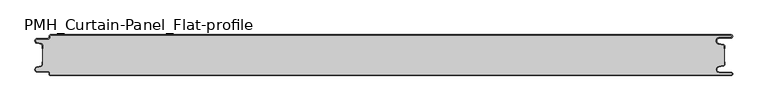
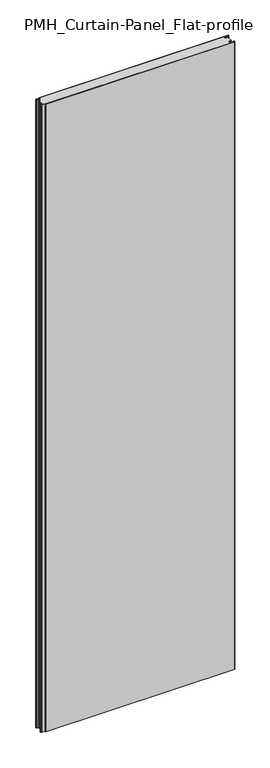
"""IFC4 building model written with IfcOpenShell, lengths in millimetres: plate geometry, PMH_Curtain-Panel_Flat-profile : ACH_PMH_Stone-wool-Panel_60M."""

from ifc_helpers import new_model, si_unit, point, frame, frame_2d, origin, origin_with_axes, place, context, project, spatial, polyline, circle_curve, trimmed, segment, composite_curve, outline, extrude, source, transform, mapped, element, save
from ifc_brep_helpers import plane_surface, cylinder_surface, revolved_surface, advanced_brep


def pmh_curtain_panel_flat_profile_f33e06ce(model_context):
    return source(origin(), model_context, "Body", "SolidModel", [
        advanced_brep(
        [(508.1, 0.0, 3500.0), (-487.4, 0.0, 3500.0), (-489.4, -2.0, 3500.0), (-489.4, -3.4, 3500.0), (-491.4, -5.4, 3500.0), (-506.9, -5.4, 3500.0), (-507.7098239, -12.5077322, 3500.0), (-501.5500979, -13.929817, 3500.0), (-500.0, -15.878557, 3500.0), (-500.0, -20.0, 3500.0), (-499.2, -20.0, 3500.0), (-499.2, -15.878557, 3500.0), (-501.370137, -13.1503208, 3500.0), (-507.529863, -11.728236, 3500.0), (-506.9, -6.2, 3500.0), (-491.4, -6.2, 3500.0), (-488.6, -3.4, 3500.0), (-488.6, -2.0, 3500.0), (-487.4, -0.8, 3500.0), (508.1, -0.8, 3500.0), (508.1, -4.2, 3500.0), (491.1, -4.2, 3500.0), (490.2664884, -13.7270771, 3500.0), (496.7125669, -14.8636953, 3500.0), (498.2, -16.6363492, 3500.0), (498.2, -20.0, 3500.0), (499.0, -20.0, 3500.0), (499.0, -16.6363492, 3500.0), (496.8514855, -14.0758491, 3500.0), (490.405407, -12.939231, 3500.0), (491.1, -5.0, 3500.0), (508.1, -5.0, 3500.0), (510.6, -2.5000002, 3500.0), (-487.4, 0.0, 0.0), (508.1, 0.0, 0.0), (510.6, -2.4999998, 0.0), (508.1, -5.0, 0.0), (491.1, -5.0, 0.0), (490.405407, -12.939231, 0.0), (496.8514855, -14.0758491, 0.0), (499.0, -16.6363492, 0.0), (499.0, -20.0, 0.0), (498.2, -20.0, 0.0), (498.2, -16.6363492, 0.0), (496.7125669, -14.8636953, 0.0), (490.2664884, -13.7270771, 0.0), (491.1, -4.2, 0.0), (508.1, -4.2, 0.0), (508.1, -0.8, 0.0), (-487.4, -0.8, 0.0), (-488.6, -2.0, 0.0), (-488.6, -3.4, 0.0), (-491.4, -6.2, 0.0), (-506.9, -6.2, 0.0), (-507.529863, -11.7282362, 0.0), (-501.370137, -13.150321, 0.0), (-499.2, -15.878557, 0.0), (-499.2, -20.0, 0.0), (-500.0, -20.0, 0.0), (-500.0, -15.878557, 0.0), (-501.5500978, -13.9298169, 0.0), (-507.7098239, -12.507732, 0.0), (-506.9, -5.4, 0.0), (-491.4, -5.4, 0.0), (-489.4, -3.4, 0.0), (-489.4, -2.0, 0.0)],
        [
            (0, 1),
            (1, 2, circle_curve(frame((-487.4, -2.0, 3500.0), z_axis=(0.0, 0.0, 1.0), x_axis=(1.0, 0.0, 0.0)), 2.0)),
            (2, 3),
            (3, 4, circle_curve(frame((-491.4, -3.4, 3500.0), z_axis=(0.0, 0.0, -1.0), x_axis=(1.0, 0.0, 0.0)), 2.0)),
            (4, 5),
            (5, 6, circle_curve(frame((-506.9, -9.0, 3500.0), z_axis=(0.0, 0.0, 1.0), x_axis=(1.0, 0.0, 0.0)), 3.6)),
            (6, 7),
            (7, 8, circle_curve(frame((-502.0, -15.878557, 3500.0), z_axis=(0.0, 0.0, -1.0), x_axis=(1.0, 0.0, 0.0)), 2.0)),
            (8, 9),
            (9, 10),
            (10, 11),
            (11, 12, circle_curve(frame((-502.0, -15.878557, 3500.0), z_axis=(0.0, 0.0, 1.0), x_axis=(1.0, 0.0, 0.0)), 2.8)),
            (12, 13),
            (13, 14, circle_curve(frame((-506.9, -9.0, 3500.0), z_axis=(0.0, 0.0, -1.0), x_axis=(1.0, 0.0, 0.0)), 2.8)),
            (14, 15),
            (15, 16, circle_curve(frame((-491.4, -3.4, 3500.0), z_axis=(0.0, 0.0, 1.0), x_axis=(1.0, 0.0, 0.0)), 2.8)),
            (16, 17),
            (17, 18, circle_curve(frame((-487.4, -2.0, 3500.0), z_axis=(0.0, 0.0, -1.0), x_axis=(1.0, 0.0, 0.0)), 1.2)),
            (18, 19),
            (19, 20, circle_curve(frame((508.1, -2.5, 3500.0), z_axis=(0.0, 0.0, -1.0), x_axis=(1.0, 0.0, 0.0)), 1.7)),
            (20, 21),
            (21, 22, circle_curve(frame((491.1, -9.0, 3500.0), z_axis=(0.0, 0.0, 1.0), x_axis=(1.0, 0.0, 0.0)), 4.8)),
            (22, 23),
            (23, 24, circle_curve(frame((496.4, -16.6363492, 3500.0), z_axis=(0.0, 0.0, -1.0), x_axis=(1.0, 0.0, 0.0)), 1.8)),
            (24, 25),
            (25, 26),
            (26, 27),
            (27, 28, circle_curve(frame((496.4, -16.6363492, 3500.0), z_axis=(0.0, 0.0, 1.0), x_axis=(1.0, 0.0, 0.0)), 2.6)),
            (28, 29),
            (29, 30, circle_curve(frame((491.1, -9.0, 3500.0), z_axis=(0.0, 0.0, -1.0), x_axis=(1.0, 0.0, 0.0)), 4.0)),
            (30, 31),
            (31, 32, circle_curve(frame((508.1, -2.5, 3500.0), z_axis=(0.0, 0.0, 1.0), x_axis=(1.0, 0.0, 0.0)), 2.5)),
            (32, 0, circle_curve(frame((508.1, -2.5, 3500.0), z_axis=(0.0, 0.0, 1.0), x_axis=(1.0, 0.0, 0.0)), 2.5)),
            (33, 34),
            (34, 35, circle_curve(frame((508.1, -2.5, 0.0), z_axis=(0.0, 0.0, -1.0), x_axis=(1.0, 0.0, 0.0)), 2.5)),
            (35, 36, circle_curve(frame((508.1, -2.5, 0.0), z_axis=(0.0, 0.0, -1.0), x_axis=(1.0, 0.0, 0.0)), 2.5)),
            (36, 37),
            (37, 38, circle_curve(frame((491.1, -9.0, 0.0), z_axis=(0.0, 0.0, 1.0), x_axis=(1.0, 0.0, 0.0)), 4.0)),
            (38, 39),
            (39, 40, circle_curve(frame((496.4, -16.6363492, 0.0), z_axis=(0.0, 0.0, -1.0), x_axis=(1.0, 0.0, 0.0)), 2.6)),
            (40, 41),
            (41, 42),
            (42, 43),
            (43, 44, circle_curve(frame((496.4, -16.6363492, 0.0), z_axis=(0.0, 0.0, 1.0), x_axis=(1.0, 0.0, 0.0)), 1.8)),
            (44, 45),
            (45, 46, circle_curve(frame((491.1, -9.0, 0.0), z_axis=(0.0, 0.0, -1.0), x_axis=(1.0, 0.0, 0.0)), 4.8)),
            (46, 47),
            (47, 48, circle_curve(frame((508.1, -2.5, 0.0), z_axis=(0.0, 0.0, 1.0), x_axis=(1.0, 0.0, 0.0)), 1.7)),
            (48, 49),
            (49, 50, circle_curve(frame((-487.4, -2.0, 0.0), z_axis=(0.0, 0.0, 1.0), x_axis=(1.0, 0.0, 0.0)), 1.2)),
            (50, 51),
            (51, 52, circle_curve(frame((-491.4, -3.4, 0.0), z_axis=(0.0, 0.0, -1.0), x_axis=(1.0, 0.0, 0.0)), 2.8)),
            (52, 53),
            (53, 54, circle_curve(frame((-506.9, -9.0, 0.0), z_axis=(0.0, 0.0, 1.0), x_axis=(1.0, 0.0, 0.0)), 2.8)),
            (54, 55),
            (55, 56, circle_curve(frame((-502.0, -15.878557, 0.0), z_axis=(0.0, 0.0, -1.0), x_axis=(1.0, 0.0, 0.0)), 2.8)),
            (56, 57),
            (57, 58),
            (58, 59),
            (59, 60, circle_curve(frame((-502.0, -15.878557, 0.0), z_axis=(0.0, 0.0, 1.0), x_axis=(1.0, 0.0, 0.0)), 2.0)),
            (60, 61),
            (61, 62, circle_curve(frame((-506.9, -9.0, 0.0), z_axis=(0.0, 0.0, -1.0), x_axis=(1.0, 0.0, 0.0)), 3.6)),
            (62, 63),
            (63, 64, circle_curve(frame((-491.4, -3.4, 0.0), z_axis=(0.0, 0.0, 1.0), x_axis=(1.0, 0.0, 0.0)), 2.0)),
            (64, 65),
            (65, 33, circle_curve(frame((-487.4, -2.0, 0.0), z_axis=(0.0, 0.0, -1.0), x_axis=(1.0, 0.0, 0.0)), 2.0)),
            (1, 33),
            (65, 2),
            (64, 3),
            (63, 4),
            (62, 5),
            (61, 6),
            (60, 7),
            (59, 8),
            (58, 9),
            (57, 10),
            (56, 11),
            (55, 12),
            (54, 13),
            (53, 14),
            (52, 15),
            (51, 16),
            (50, 17),
            (49, 18),
            (48, 19),
            (47, 20),
            (46, 21),
            (45, 22),
            (44, 23),
            (43, 24),
            (42, 25),
            (41, 26),
            (40, 27),
            (39, 28),
            (38, 29),
            (37, 30),
            (36, 31),
            (34, 0),
        ],
        [
            plane_surface(frame((-500.0, 0.0, 3500.0), z_axis=(0.0, 0.0, 1.0), x_axis=(0.0, 1.0, 0.0))),
            plane_surface(frame((-500.0, 0.0, 0.0), z_axis=(0.0, 0.0, -1.0), x_axis=(0.0, 1.0, 0.0))),
            cylinder_surface(frame((-487.4, -2.0, 3500.0), z_axis=(0.0, 0.0, 1.0), x_axis=(1.0, 0.0, 0.0)), 2.0),
            plane_surface(frame((-489.4, -2.0, 3500.0), z_axis=(-1.0, 0.0, 0.0), x_axis=(0.0, 0.0, -1.0))),
            revolved_surface(polyline([(-489.4, -3.4, 0.0), (-489.4, -3.4, 3500.0)]), (-491.4, -3.4, 3500.0), (0.0, 0.0, -1.0)),
            plane_surface(frame((-491.4, -5.4, 3500.0), z_axis=(0.0, 1.0, 0.0), x_axis=(0.0, 0.0, -1.0))),
            cylinder_surface(frame((-506.9, -9.0, 3500.0), z_axis=(0.0, 0.0, 1.0), x_axis=(1.0, 0.0, 0.0)), 3.6),
            plane_surface(frame((-507.7098239, -12.507732, 3500.0), z_axis=(-0.2249510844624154, -0.9743700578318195, 0.0), x_axis=(0.0, 0.0, -1.0))),
            revolved_surface(polyline([(-500.0, -15.878557, 0.0), (-500.0, -15.878557, 3500.0)]), (-502.0, -15.878557, 3500.0), (0.0, 0.0, -1.0)),
            plane_surface(frame((-500.0, -15.878557, 3500.0), z_axis=(-1.0, 0.0, 0.0), x_axis=(0.0, 0.0, -1.0))),
            plane_surface(frame((-500.0, -20.0, 3500.0), z_axis=(0.0, -1.0, 0.0), x_axis=(0.0, 0.0, -1.0))),
            plane_surface(frame((-499.2, -20.0, 3500.0), z_axis=(1.0, 0.0, 0.0), x_axis=(0.0, 0.0, -1.0))),
            cylinder_surface(frame((-502.0, -15.878557, 3500.0), z_axis=(0.0, 0.0, 1.0), x_axis=(1.0, 0.0, 0.0)), 2.8),
            plane_surface(frame((-501.370137, -13.150321, 3500.0), z_axis=(0.22495108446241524, 0.9743700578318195, 0.0), x_axis=(0.0, 0.0, -1.0))),
            revolved_surface(polyline([(-504.09999999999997, -9.0, 0.0), (-504.09999999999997, -9.0, 3500.0)]), (-506.9, -9.0, 3500.0), (0.0, 0.0, -1.0)),
            plane_surface(frame((-506.9, -6.2, 3500.0), z_axis=(0.0, -1.0, 0.0), x_axis=(0.0, 0.0, -1.0))),
            cylinder_surface(frame((-491.4, -3.4, 3500.0), z_axis=(0.0, 0.0, 1.0), x_axis=(1.0, 0.0, 0.0)), 2.8),
            plane_surface(frame((-488.6, -3.4, 3500.0), z_axis=(1.0, 0.0, 0.0), x_axis=(0.0, 0.0, -1.0))),
            revolved_surface(polyline([(-486.2, -2.0, 0.0), (-486.2, -2.0, 3500.0)]), (-487.4, -2.0, 3500.0), (0.0, 0.0, -1.0)),
            plane_surface(frame((-487.4, -0.8, 3500.0), z_axis=(0.0, -1.0, 0.0), x_axis=(0.0, 0.0, -1.0))),
            revolved_surface(polyline([(509.8, -2.5, 0.0), (509.8, -2.5, 3500.0)]), (508.1, -2.5, 3500.0), (0.0, 0.0, -1.0)),
            plane_surface(frame((508.1, -4.2, 3500.0), z_axis=(0.0, 1.0, 0.0), x_axis=(0.0, 0.0, -1.0))),
            cylinder_surface(frame((491.1, -9.0, 3500.0), z_axis=(0.0, 0.0, 1.0), x_axis=(1.0, 0.0, 0.0)), 4.8),
            plane_surface(frame((490.2664884, -13.7270771, 3500.0), z_axis=(-0.17364826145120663, -0.984807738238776, 0.0), x_axis=(0.0, 0.0, -1.0))),
            revolved_surface(polyline([(498.2, -16.6363492, 0.0), (498.2, -16.6363492, 3500.0)]), (496.4, -16.6363492, 3500.0), (0.0, 0.0, -1.0)),
            plane_surface(frame((498.2, -16.6363492, 3500.0), z_axis=(-1.0, 0.0, 0.0), x_axis=(0.0, 0.0, -1.0))),
            plane_surface(frame((498.2, -20.0, 3500.0), z_axis=(0.0, -1.0, 0.0), x_axis=(0.0, 0.0, -1.0))),
            plane_surface(frame((499.0, -20.0, 3500.0), z_axis=(1.0, 0.0, 0.0), x_axis=(0.0, 0.0, -1.0))),
            cylinder_surface(frame((496.4, -16.6363492, 3500.0), z_axis=(0.0, 0.0, 1.0), x_axis=(1.0, 0.0, 0.0)), 2.6),
            plane_surface(frame((496.8514855, -14.0758491, 3500.0), z_axis=(0.17364826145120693, 0.9848077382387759, 0.0), x_axis=(0.0, 0.0, -1.0))),
            revolved_surface(polyline([(495.1, -9.0, 0.0), (495.1, -9.0, 3500.0)]), (491.1, -9.0, 3500.0), (0.0, 0.0, -1.0)),
            plane_surface(frame((491.1, -5.0, 3500.0), z_axis=(0.0, -1.0, 0.0), x_axis=(0.0, 0.0, -1.0))),
            cylinder_surface(frame((508.1, -2.5, 3500.0), z_axis=(0.0, 0.0, 1.0), x_axis=(1.0, 0.0, 0.0)), 2.5),
            plane_surface(frame((490.5783588, 0.0, 3500.0), z_axis=(0.0, 1.0, 0.0), x_axis=(0.0, 0.0, -1.0))),
        ],
        [
            (0, [[1, 2, 3, 4, 5, 6, 7, 8, 9, 10, 11, 12, 13, 14, 15, 16, 17, 18, 19, 20, 21, 22, 23, 24, 25, 26, 27, 28, 29, 30, 31, 32, 33]]),
            (1, [[34, 35, 36, 37, 38, 39, 40, 41, 42, 43, 44, 45, 46, 47, 48, 49, 50, 51, 52, 53, 54, 55, 56, 57, 58, 59, 60, 61, 62, 63, 64, 65, 66]]),
            (2, [[-2, 67, -66, 68]]),
            (3, [[-3, -68, -65, 69]]),
            (4, [[-4, -69, -64, 70]]),
            (5, [[-5, -70, -63, 71]]),
            (6, [[-6, -71, -62, 72]]),
            (7, [[-7, -72, -61, 73]]),
            (8, [[-8, -73, -60, 74]]),
            (9, [[-9, -74, -59, 75]]),
            (10, [[-10, -75, -58, 76]]),
            (11, [[-11, -76, -57, 77]]),
            (12, [[-12, -77, -56, 78]]),
            (13, [[-13, -78, -55, 79]]),
            (14, [[-14, -79, -54, 80]]),
            (15, [[-15, -80, -53, 81]]),
            (16, [[-16, -81, -52, 82]]),
            (17, [[-17, -82, -51, 83]]),
            (18, [[-18, -83, -50, 84]]),
            (19, [[-19, -84, -49, 85]]),
            (20, [[-20, -85, -48, 86]]),
            (21, [[-21, -86, -47, 87]]),
            (22, [[-22, -87, -46, 88]]),
            (23, [[-23, -88, -45, 89]]),
            (24, [[-24, -89, -44, 90]]),
            (25, [[-25, -90, -43, 91]]),
            (26, [[-26, -91, -42, 92]]),
            (27, [[-27, -92, -41, 93]]),
            (28, [[-28, -93, -40, 94]]),
            (29, [[-29, -94, -39, 95]]),
            (30, [[-30, -95, -38, 96]]),
            (31, [[-31, -96, -37, 97]]),
            (32, [[-97, -36, -35, 98, -33, -32]]),
            (33, [[-1, -98, -34, -67]]),
        ],
    ),
        extrude(outline(composite_curve([segment(polyline([(-499.2, -44.1214426), (-499.2, -15.8785573)]), True, "CONTINUOUS"), segment(trimmed(circle_curve(frame_2d((-502.0, -15.8785573)), 2.8), [point((-499.2, -15.8785573))], [point((-501.370137, -13.1503212))], True, "CARTESIAN"), True, "CONTINUOUS"), segment(polyline([(-501.370137, -13.1503212), (-507.5298631, -11.7282362)]), True, "CONTINUOUS"), segment(trimmed(circle_curve(frame_2d((-506.9, -9.0)), 2.8), [point((-507.5298631, -11.7282362))], [point((-506.9, -6.2))], False, "CARTESIAN"), True, "CONTINUOUS"), segment(polyline([(-506.9, -6.2), (-491.4000001, -6.2)]), True, "CONTINUOUS"), segment(trimmed(circle_curve(frame_2d((-491.4000001, -3.4)), 2.8), [point((-491.4000001, -6.2))], [point((-488.6000001, -3.4))], True, "CARTESIAN"), True, "CONTINUOUS"), segment(polyline([(-488.6000001, -3.4), (-488.6000001, -2.0)]), True, "CONTINUOUS"), segment(trimmed(circle_curve(frame_2d((-487.4000001, -2.0)), 1.2), [point((-488.6000001, -2.0))], [point((-487.4000001, -0.8))], False, "CARTESIAN"), True, "CONTINUOUS"), segment(polyline([(-487.4000001, -0.8), (508.1, -0.8)]), True, "CONTINUOUS"), segment(trimmed(circle_curve(frame_2d((508.1, -2.5)), 1.7), [point((508.1, -0.8))], [point((508.1, -4.2))], False, "CARTESIAN"), True, "CONTINUOUS"), segment(polyline([(508.1, -4.2), (491.1, -4.2)]), True, "CONTINUOUS"), segment(trimmed(circle_curve(frame_2d((491.1, -9.0)), 4.8), [point((491.1, -4.2))], [point((490.2664883, -13.7270771))], True, "CARTESIAN"), True, "CONTINUOUS"), segment(polyline([(490.2664883, -13.7270771), (496.7125668, -14.8636953)]), True, "CONTINUOUS"), segment(trimmed(circle_curve(frame_2d((496.4, -16.6363492)), 1.8), [point((496.7125668, -14.8636953))], [point((498.2, -16.6363492))], False, "CARTESIAN"), True, "CONTINUOUS"), segment(polyline([(498.2, -16.6363492), (498.2, -43.3636508)]), True, "CONTINUOUS"), segment(trimmed(circle_curve(frame_2d((496.4, -43.3636508)), 1.8), [point((498.2, -43.3636508))], [point((496.7125668, -45.1363047))], False, "CARTESIAN"), True, "CONTINUOUS"), segment(polyline([(496.7125668, -45.1363047), (490.2664883, -46.2729229)]), True, "CONTINUOUS"), segment(trimmed(circle_curve(frame_2d((491.1, -51.0)), 4.8), [point((490.2664883, -46.2729229))], [point((491.1, -55.8))], True, "CARTESIAN"), True, "CONTINUOUS"), segment(polyline([(491.1, -55.8), (508.1, -55.8)]), True, "CONTINUOUS"), segment(trimmed(circle_curve(frame_2d((508.1, -57.5)), 1.7), [point((508.1, -55.8))], [point((508.1, -59.2))], False, "CARTESIAN"), True, "CONTINUOUS"), segment(polyline([(508.1, -59.2), (-487.4000001, -59.2)]), True, "CONTINUOUS"), segment(trimmed(circle_curve(frame_2d((-487.4000001, -58.0)), 1.2), [point((-487.4000001, -59.2))], [point((-488.6000001, -58.0))], False, "CARTESIAN"), True, "CONTINUOUS"), segment(polyline([(-488.6000001, -58.0), (-488.6000001, -56.6)]), True, "CONTINUOUS"), segment(trimmed(circle_curve(frame_2d((-491.4000001, -56.6)), 2.8), [point((-488.6000001, -56.6))], [point((-491.4000001, -53.8))], True, "CARTESIAN"), True, "CONTINUOUS"), segment(polyline([(-491.4000001, -53.8), (-506.9, -53.8)]), True, "CONTINUOUS"), segment(trimmed(circle_curve(frame_2d((-506.9, -51.0)), 2.8), [point((-506.9, -53.8))], [point((-507.5298631, -48.2717638))], False, "CARTESIAN"), True, "CONTINUOUS"), segment(polyline([(-507.5298631, -48.2717638), (-501.370137, -46.8496788)]), True, "CONTINUOUS"), segment(trimmed(circle_curve(frame_2d((-502.0, -44.1214426)), 2.8), [point((-501.370137, -46.8496788))], [point((-499.2, -44.1214426))], True, "CARTESIAN"), True, "CONTINUOUS")], self_intersect=False)), origin_with_axes(), (0.0, 0.0, 1.0), 3500.0),
        advanced_brep(
        [(-487.4, -60.0, 3500.0), (508.1, -60.0, 3500.0), (510.6, -57.5000002, 3500.0), (508.1, -55.0, 3500.0), (491.1, -55.0, 3500.0), (490.405407, -47.060769, 3500.0), (496.8514855, -45.9241509, 3500.0), (499.0, -43.3636508, 3500.0), (499.0, -40.0, 3500.0), (498.2, -40.0, 3500.0), (498.2, -43.3636508, 3500.0), (496.7125669, -45.1363047, 3500.0), (490.2664884, -46.2729229, 3500.0), (491.1, -55.8, 3500.0), (508.1, -55.8, 3500.0), (508.1, -59.2, 3500.0), (-487.4, -59.2, 3500.0), (-488.6, -58.0, 3500.0), (-488.6, -56.6, 3500.0), (-491.4, -53.8, 3500.0), (-506.9, -53.8, 3500.0), (-507.529863, -48.2717638, 3500.0), (-501.370137, -46.849679, 3500.0), (-499.2, -44.121443, 3500.0), (-499.2, -40.0, 3500.0), (-500.0, -40.0, 3500.0), (-500.0, -44.121443, 3500.0), (-501.5500978, -46.0701831, 3500.0), (-507.7098239, -47.492268, 3500.0), (-506.9, -54.6, 3500.0), (-491.4, -54.6, 3500.0), (-489.4, -56.6, 3500.0), (-489.4, -58.0, 3500.0), (508.1, -60.0, 0.0), (-487.4, -60.0, 0.0), (-489.4, -58.0, 0.0), (-489.4, -56.6, 0.0), (-491.4, -54.6, 0.0), (-506.9, -54.6, 0.0), (-507.7098239, -47.4922678, 0.0), (-501.5500979, -46.070183, 0.0), (-500.0, -44.121443, 0.0), (-500.0, -40.0, 0.0), (-499.2, -40.0, 0.0), (-499.2, -44.121443, 0.0), (-501.370137, -46.8496792, 0.0), (-507.529863, -48.271764, 0.0), (-506.9, -53.8, 0.0), (-491.4, -53.8, 0.0), (-488.6, -56.6, 0.0), (-488.6, -58.0, 0.0), (-487.4, -59.2, 0.0), (508.1, -59.2, 0.0), (508.1, -55.8, 0.0), (491.1, -55.8, 0.0), (490.2664884, -46.2729229, 0.0), (496.7125669, -45.1363047, 0.0), (498.2, -43.3636508, 0.0), (498.2, -40.0, 0.0), (499.0, -40.0, 0.0), (499.0, -43.3636508, 0.0), (496.8514855, -45.9241509, 0.0), (490.405407, -47.060769, 0.0), (491.1, -55.0, 0.0), (508.1, -55.0, 0.0), (510.6, -57.4999998, 0.0)],
        [
            (0, 1),
            (1, 2, circle_curve(frame((508.1, -57.5, 3500.0), z_axis=(0.0, 0.0, 1.0), x_axis=(1.0, 0.0, 0.0)), 2.5)),
            (2, 3, circle_curve(frame((508.1, -57.5, 3500.0), z_axis=(0.0, 0.0, 1.0), x_axis=(1.0, 0.0, 0.0)), 2.5)),
            (3, 4),
            (4, 5, circle_curve(frame((491.1, -51.0, 3500.0), z_axis=(0.0, 0.0, -1.0), x_axis=(1.0, 0.0, 0.0)), 4.0)),
            (5, 6),
            (6, 7, circle_curve(frame((496.4, -43.3636508, 3500.0), z_axis=(0.0, 0.0, 1.0), x_axis=(1.0, 0.0, 0.0)), 2.6)),
            (7, 8),
            (8, 9),
            (9, 10),
            (10, 11, circle_curve(frame((496.4, -43.3636508, 3500.0), z_axis=(0.0, 0.0, -1.0), x_axis=(1.0, 0.0, 0.0)), 1.8)),
            (11, 12),
            (12, 13, circle_curve(frame((491.1, -51.0, 3500.0), z_axis=(0.0, 0.0, 1.0), x_axis=(1.0, 0.0, 0.0)), 4.8)),
            (13, 14),
            (14, 15, circle_curve(frame((508.1, -57.5, 3500.0), z_axis=(0.0, 0.0, -1.0), x_axis=(1.0, 0.0, 0.0)), 1.7)),
            (15, 16),
            (16, 17, circle_curve(frame((-487.4, -58.0, 3500.0), z_axis=(0.0, 0.0, -1.0), x_axis=(1.0, 0.0, 0.0)), 1.2)),
            (17, 18),
            (18, 19, circle_curve(frame((-491.4, -56.6, 3500.0), z_axis=(0.0, 0.0, 1.0), x_axis=(1.0, 0.0, 0.0)), 2.8)),
            (19, 20),
            (20, 21, circle_curve(frame((-506.9, -51.0, 3500.0), z_axis=(0.0, 0.0, -1.0), x_axis=(1.0, 0.0, 0.0)), 2.8)),
            (21, 22),
            (22, 23, circle_curve(frame((-502.0, -44.121443, 3500.0), z_axis=(0.0, 0.0, 1.0), x_axis=(1.0, 0.0, 0.0)), 2.8)),
            (23, 24),
            (24, 25),
            (25, 26),
            (26, 27, circle_curve(frame((-502.0, -44.121443, 3500.0), z_axis=(0.0, 0.0, -1.0), x_axis=(1.0, 0.0, 0.0)), 2.0)),
            (27, 28),
            (28, 29, circle_curve(frame((-506.9, -51.0, 3500.0), z_axis=(0.0, 0.0, 1.0), x_axis=(1.0, 0.0, 0.0)), 3.6)),
            (29, 30),
            (30, 31, circle_curve(frame((-491.4, -56.6, 3500.0), z_axis=(0.0, 0.0, -1.0), x_axis=(1.0, 0.0, 0.0)), 2.0)),
            (31, 32),
            (32, 0, circle_curve(frame((-487.4, -58.0, 3500.0), z_axis=(0.0, 0.0, 1.0), x_axis=(1.0, 0.0, 0.0)), 2.0)),
            (33, 34),
            (34, 35, circle_curve(frame((-487.4, -58.0, 0.0), z_axis=(0.0, 0.0, -1.0), x_axis=(1.0, 0.0, 0.0)), 2.0)),
            (35, 36),
            (36, 37, circle_curve(frame((-491.4, -56.6, 0.0), z_axis=(0.0, 0.0, 1.0), x_axis=(1.0, 0.0, 0.0)), 2.0)),
            (37, 38),
            (38, 39, circle_curve(frame((-506.9, -51.0, 0.0), z_axis=(0.0, 0.0, -1.0), x_axis=(1.0, 0.0, 0.0)), 3.6)),
            (39, 40),
            (40, 41, circle_curve(frame((-502.0, -44.121443, 0.0), z_axis=(0.0, 0.0, 1.0), x_axis=(1.0, 0.0, 0.0)), 2.0)),
            (41, 42),
            (42, 43),
            (43, 44),
            (44, 45, circle_curve(frame((-502.0, -44.121443, 0.0), z_axis=(0.0, 0.0, -1.0), x_axis=(1.0, 0.0, 0.0)), 2.8)),
            (45, 46),
            (46, 47, circle_curve(frame((-506.9, -51.0, 0.0), z_axis=(0.0, 0.0, 1.0), x_axis=(1.0, 0.0, 0.0)), 2.8)),
            (47, 48),
            (48, 49, circle_curve(frame((-491.4, -56.6, 0.0), z_axis=(0.0, 0.0, -1.0), x_axis=(1.0, 0.0, 0.0)), 2.8)),
            (49, 50),
            (50, 51, circle_curve(frame((-487.4, -58.0, 0.0), z_axis=(0.0, 0.0, 1.0), x_axis=(1.0, 0.0, 0.0)), 1.2)),
            (51, 52),
            (52, 53, circle_curve(frame((508.1, -57.5, 0.0), z_axis=(0.0, 0.0, 1.0), x_axis=(1.0, 0.0, 0.0)), 1.7)),
            (53, 54),
            (54, 55, circle_curve(frame((491.1, -51.0, 0.0), z_axis=(0.0, 0.0, -1.0), x_axis=(1.0, 0.0, 0.0)), 4.8)),
            (55, 56),
            (56, 57, circle_curve(frame((496.4, -43.3636508, 0.0), z_axis=(0.0, 0.0, 1.0), x_axis=(1.0, 0.0, 0.0)), 1.8)),
            (57, 58),
            (58, 59),
            (59, 60),
            (60, 61, circle_curve(frame((496.4, -43.3636508, 0.0), z_axis=(0.0, 0.0, -1.0), x_axis=(1.0, 0.0, 0.0)), 2.6)),
            (61, 62),
            (62, 63, circle_curve(frame((491.1, -51.0, 0.0), z_axis=(0.0, 0.0, 1.0), x_axis=(1.0, 0.0, 0.0)), 4.0)),
            (63, 64),
            (64, 65, circle_curve(frame((508.1, -57.5, 0.0), z_axis=(0.0, 0.0, -1.0), x_axis=(1.0, 0.0, 0.0)), 2.5)),
            (65, 33, circle_curve(frame((508.1, -57.5, 0.0), z_axis=(0.0, 0.0, -1.0), x_axis=(1.0, 0.0, 0.0)), 2.5)),
            (0, 34),
            (33, 1),
            (64, 3),
            (63, 4),
            (62, 5),
            (61, 6),
            (60, 7),
            (59, 8),
            (58, 9),
            (57, 10),
            (56, 11),
            (55, 12),
            (54, 13),
            (53, 14),
            (52, 15),
            (51, 16),
            (50, 17),
            (49, 18),
            (48, 19),
            (47, 20),
            (46, 21),
            (45, 22),
            (44, 23),
            (43, 24),
            (42, 25),
            (41, 26),
            (40, 27),
            (39, 28),
            (38, 29),
            (37, 30),
            (36, 31),
            (35, 32),
        ],
        [
            plane_surface(frame((-500.0, -60.0, 3500.0), z_axis=(0.0, 0.0, 1.0), x_axis=(0.0, 1.0, 0.0))),
            plane_surface(frame((-500.0, -60.0, 0.0), z_axis=(0.0, 0.0, -1.0), x_axis=(0.0, 1.0, 0.0))),
            plane_surface(frame((490.5783588, -60.0, 3500.0), z_axis=(0.0, -1.0, 0.0), x_axis=(0.0, 0.0, -1.0))),
            cylinder_surface(frame((508.1, -57.5, 3500.0), z_axis=(0.0, 0.0, 1.0), x_axis=(1.0, 0.0, 0.0)), 2.5),
            plane_surface(frame((508.1, -55.0, 3500.0), z_axis=(0.0, 1.0, 0.0), x_axis=(0.0, 0.0, -1.0))),
            revolved_surface(polyline([(495.1, -51.0, 0.0), (495.1, -51.0, 3500.0)]), (491.1, -51.0, 3500.0), (0.0, 0.0, -1.0)),
            plane_surface(frame((490.405407, -47.060769, 3500.0), z_axis=(0.17364826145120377, -0.9848077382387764, 0.0), x_axis=(0.0, 0.0, -1.0))),
            cylinder_surface(frame((496.4, -43.3636508, 3500.0), z_axis=(0.0, 0.0, 1.0), x_axis=(1.0, 0.0, 0.0)), 2.6),
            plane_surface(frame((499.0, -43.3636508, 3500.0), z_axis=(1.0, 0.0, 0.0), x_axis=(0.0, 0.0, -1.0))),
            plane_surface(frame((499.0, -40.0, 3500.0), z_axis=(0.0, 1.0, 0.0), x_axis=(0.0, 0.0, -1.0))),
            plane_surface(frame((498.2, -40.0, 3500.0), z_axis=(-1.0, 0.0, 0.0), x_axis=(0.0, 0.0, -1.0))),
            revolved_surface(polyline([(498.2, -43.3636508, 0.0), (498.2, -43.3636508, 3500.0)]), (496.4, -43.3636508, 3500.0), (0.0, 0.0, -1.0)),
            plane_surface(frame((496.7125669, -45.1363047, 3500.0), z_axis=(-0.17364826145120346, 0.9848077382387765, 0.0), x_axis=(0.0, 0.0, -1.0))),
            cylinder_surface(frame((491.1, -51.0, 3500.0), z_axis=(0.0, 0.0, 1.0), x_axis=(1.0, 0.0, 0.0)), 4.8),
            plane_surface(frame((491.1, -55.8, 3500.0), z_axis=(0.0, -1.0, 0.0), x_axis=(0.0, 0.0, -1.0))),
            revolved_surface(polyline([(509.8, -57.5, 0.0), (509.8, -57.5, 3500.0)]), (508.1, -57.5, 3500.0), (0.0, 0.0, -1.0)),
            plane_surface(frame((508.1, -59.2, 3500.0), z_axis=(0.0, 1.0, 0.0), x_axis=(0.0, 0.0, -1.0))),
            revolved_surface(polyline([(-486.2, -58.0, 0.0), (-486.2, -58.0, 3500.0)]), (-487.4, -58.0, 3500.0), (0.0, 0.0, -1.0)),
            plane_surface(frame((-488.6, -58.0, 3500.0), z_axis=(1.0, 0.0, 0.0), x_axis=(0.0, 0.0, -1.0))),
            cylinder_surface(frame((-491.4, -56.6, 3500.0), z_axis=(0.0, 0.0, 1.0), x_axis=(1.0, 0.0, 0.0)), 2.8),
            plane_surface(frame((-491.4, -53.8, 3500.0), z_axis=(0.0, 1.0, 0.0), x_axis=(0.0, 0.0, -1.0))),
            revolved_surface(polyline([(-504.09999999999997, -51.0, 0.0), (-504.09999999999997, -51.0, 3500.0)]), (-506.9, -51.0, 3500.0), (0.0, 0.0, -1.0)),
            plane_surface(frame((-507.529863, -48.271764, 3500.0), z_axis=(0.2249510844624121, -0.9743700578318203, 0.0), x_axis=(0.0, 0.0, -1.0))),
            cylinder_surface(frame((-502.0, -44.121443, 3500.0), z_axis=(0.0, 0.0, 1.0), x_axis=(1.0, 0.0, 0.0)), 2.8),
            plane_surface(frame((-499.2, -44.121443, 3500.0), z_axis=(1.0, 0.0, 0.0), x_axis=(0.0, 0.0, -1.0))),
            plane_surface(frame((-499.2, -40.0, 3500.0), z_axis=(0.0, 1.0, 0.0), x_axis=(0.0, 0.0, -1.0))),
            plane_surface(frame((-500.0, -40.0, 3500.0), z_axis=(-1.0, 0.0, 0.0), x_axis=(0.0, 0.0, -1.0))),
            revolved_surface(polyline([(-500.0, -44.121443, 0.0), (-500.0, -44.121443, 3500.0)]), (-502.0, -44.121443, 3500.0), (0.0, 0.0, -1.0)),
            plane_surface(frame((-501.5500979, -46.070183, 3500.0), z_axis=(-0.22495108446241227, 0.9743700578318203, 0.0), x_axis=(0.0, 0.0, -1.0))),
            cylinder_surface(frame((-506.9, -51.0, 3500.0), z_axis=(0.0, 0.0, 1.0), x_axis=(1.0, 0.0, 0.0)), 3.6),
            plane_surface(frame((-506.9, -54.6, 3500.0), z_axis=(0.0, -1.0, 0.0), x_axis=(0.0, 0.0, -1.0))),
            revolved_surface(polyline([(-489.4, -56.6, 0.0), (-489.4, -56.6, 3500.0)]), (-491.4, -56.6, 3500.0), (0.0, 0.0, -1.0)),
            plane_surface(frame((-489.4, -56.6, 3500.0), z_axis=(-1.0, 0.0, 0.0), x_axis=(0.0, 0.0, -1.0))),
            cylinder_surface(frame((-487.4, -58.0, 3500.0), z_axis=(0.0, 0.0, 1.0), x_axis=(1.0, 0.0, 0.0)), 2.0),
        ],
        [
            (0, [[1, 2, 3, 4, 5, 6, 7, 8, 9, 10, 11, 12, 13, 14, 15, 16, 17, 18, 19, 20, 21, 22, 23, 24, 25, 26, 27, 28, 29, 30, 31, 32, 33]]),
            (1, [[34, 35, 36, 37, 38, 39, 40, 41, 42, 43, 44, 45, 46, 47, 48, 49, 50, 51, 52, 53, 54, 55, 56, 57, 58, 59, 60, 61, 62, 63, 64, 65, 66]]),
            (2, [[-1, 67, -34, 68]]),
            (3, [[-68, -66, -65, 69, -3, -2]]),
            (4, [[-4, -69, -64, 70]]),
            (5, [[-5, -70, -63, 71]]),
            (6, [[-6, -71, -62, 72]]),
            (7, [[-7, -72, -61, 73]]),
            (8, [[-8, -73, -60, 74]]),
            (9, [[-9, -74, -59, 75]]),
            (10, [[-10, -75, -58, 76]]),
            (11, [[-11, -76, -57, 77]]),
            (12, [[-12, -77, -56, 78]]),
            (13, [[-13, -78, -55, 79]]),
            (14, [[-14, -79, -54, 80]]),
            (15, [[-15, -80, -53, 81]]),
            (16, [[-16, -81, -52, 82]]),
            (17, [[-17, -82, -51, 83]]),
            (18, [[-18, -83, -50, 84]]),
            (19, [[-19, -84, -49, 85]]),
            (20, [[-20, -85, -48, 86]]),
            (21, [[-21, -86, -47, 87]]),
            (22, [[-22, -87, -46, 88]]),
            (23, [[-23, -88, -45, 89]]),
            (24, [[-24, -89, -44, 90]]),
            (25, [[-25, -90, -43, 91]]),
            (26, [[-26, -91, -42, 92]]),
            (27, [[-27, -92, -41, 93]]),
            (28, [[-28, -93, -40, 94]]),
            (29, [[-29, -94, -39, 95]]),
            (30, [[-30, -95, -38, 96]]),
            (31, [[-31, -96, -37, 97]]),
            (32, [[-32, -97, -36, 98]]),
            (33, [[-33, -98, -35, -67]]),
        ],
    ),
    ])


if __name__ == "__main__":
    model = new_model("IFC4")
    model_context = context("Model", 3, world=origin())
    ifc_project = project(units=[si_unit("LENGTHUNIT", "METRE", prefix="MILLI")], contexts=[model_context])
    site = spatial("IfcSite", under=ifc_project)
    building = spatial("IfcBuilding", under=site)
    placement = place(None, origin())
    pmh_curtain_panel_flat_profile_shape = pmh_curtain_panel_flat_profile_f33e06ce(model_context)
    element("IfcPlate", 1, ObjectType="PMH_Curtain-Panel_Flat-profile : ACH_PMH_Stone-wool-Panel_60M", at=placement, inside=building, context=model_context, shape_type="MappedRepresentation", body=[
        mapped(pmh_curtain_panel_flat_profile_shape, transform((0.0, 0.0, 0.0), x_axis=(1.0, 0.0, 0.0), y_axis=(0.0, 1.0, 0.0), z_axis=(0.0, 0.0, 1.0))),
    ])
    save(model, "model.ifc")
